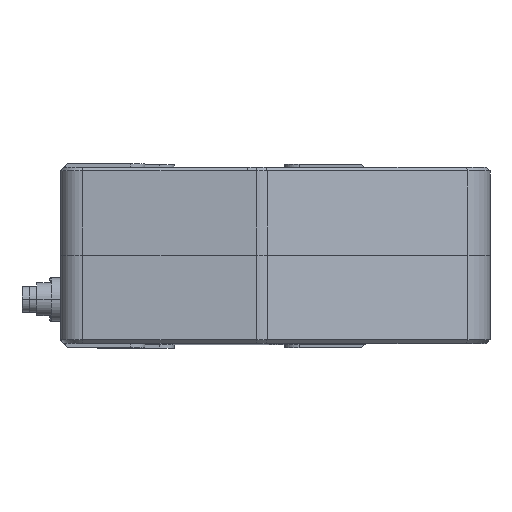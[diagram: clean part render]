
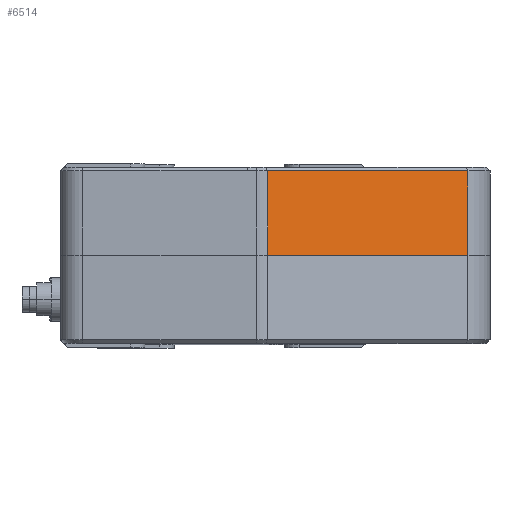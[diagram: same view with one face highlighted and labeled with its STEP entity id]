
A CAD part, top view. The second image highlights one B-rep face of the part: STEP entity #6514.
In plain terms, the highlighted planar face has unit normal (0.5, 0, 0.866).
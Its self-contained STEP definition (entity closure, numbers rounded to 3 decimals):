
#519 = ORIENTED_EDGE ( 'NONE', *, *, #4071, .F. ) ;
#520 = ORIENTED_EDGE ( 'NONE', *, *, #4116, .T. ) ;
#521 = ORIENTED_EDGE ( 'NONE', *, *, #4117, .T. ) ;
#522 = ORIENTED_EDGE ( 'NONE', *, *, #4042, .T. ) ;
#1699 = DIRECTION ( 'NONE',  ( 0.866, 0., -0.5 ) ) ;
#1702 = CARTESIAN_POINT ( 'NONE',  ( 53.476, 0., 73.155 ) ) ;
#1756 = CARTESIAN_POINT ( 'NONE',  ( 53.476, 24., 73.155 ) ) ;
#1763 = DIRECTION ( 'NONE',  ( 0., -1., 0. ) ) ;
#4042 = EDGE_CURVE ( 'NONE', #8211, #8209, #29280, .T. ) ;
#4071 = EDGE_CURVE ( 'NONE', #8265, #8209, #29326, .T. ) ;
#4116 = EDGE_CURVE ( 'NONE', #8265, #8313, #29409, .T. ) ;
#4117 = EDGE_CURVE ( 'NONE', #8313, #8211, #29411, .T. ) ;
#5603 = CARTESIAN_POINT ( 'NONE',  ( 53.476, 23., 73.155 ) ) ;
#5604 = DIRECTION ( 'NONE',  ( -0.866, 0., 0.5 ) ) ;
#5605 = CARTESIAN_POINT ( 'NONE',  ( -1.131, 24., 104.683 ) ) ;
#5606 = DIRECTION ( 'NONE',  ( 0., -1., 0. ) ) ;
#6514 = ADVANCED_FACE ( 'NONE', ( #21437 ), #23283, .F. ) ;
#8209 = VERTEX_POINT ( 'NONE', #12720 ) ;
#8211 = VERTEX_POINT ( 'NONE', #12721 ) ;
#8265 = VERTEX_POINT ( 'NONE', #12748 ) ;
#8313 = VERTEX_POINT ( 'NONE', #12772 ) ;
#12720 = CARTESIAN_POINT ( 'NONE',  ( 53.476, 0., 73.155 ) ) ;
#12721 = CARTESIAN_POINT ( 'NONE',  ( -1.131, 0., 104.683 ) ) ;
#12748 = CARTESIAN_POINT ( 'NONE',  ( 53.476, 23., 73.155 ) ) ;
#12772 = CARTESIAN_POINT ( 'NONE',  ( -1.131, 23., 104.683 ) ) ;
#21437 = FACE_OUTER_BOUND ( 'NONE', #28170, .T. ) ;
#22354 = AXIS2_PLACEMENT_3D ( 'NONE', #23276, #23285, #23286 ) ;
#23276 = CARTESIAN_POINT ( 'NONE',  ( 53.476, 24., 73.155 ) ) ;
#23283 = PLANE ( 'NONE',  #22354 ) ;
#23285 = DIRECTION ( 'NONE',  ( -0.5, 0., -0.866 ) ) ;
#23286 = DIRECTION ( 'NONE',  ( -0.866, 0., 0.5 ) ) ;
#28170 = EDGE_LOOP ( 'NONE', ( #519, #520, #521, #522 ) ) ;
#29280 = LINE ( 'NONE', #1702, #29284 ) ;
#29284 = VECTOR ( 'NONE', #1699, 1000. ) ;
#29326 = LINE ( 'NONE', #1756, #29328 ) ;
#29328 = VECTOR ( 'NONE', #1763, 1000. ) ;
#29409 = LINE ( 'NONE', #5603, #29412 ) ;
#29411 = LINE ( 'NONE', #5605, #29414 ) ;
#29412 = VECTOR ( 'NONE', #5604, 1000. ) ;
#29414 = VECTOR ( 'NONE', #5606, 1000. ) ;
